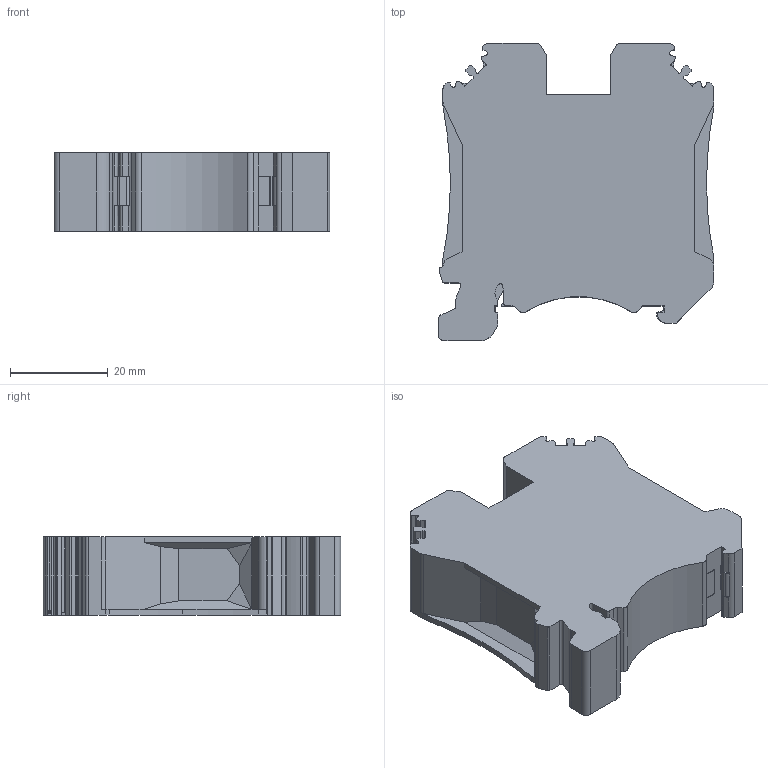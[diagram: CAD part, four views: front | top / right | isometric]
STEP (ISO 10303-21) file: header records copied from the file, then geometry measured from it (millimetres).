
FILE_DESCRIPTION((''),'2;1');
FILE_NAME('PRT0002','2020-05-26T',('Administrator'),(''),'PRO/ENGINEER BY PARAMETRIC TECHNOLOGY CORPORATION, 2012360','PRO/ENGINEER BY PARAMETRIC TECHNOLOGY CORPORATION, 2012360','');
FILE_SCHEMA(('CONFIG_CONTROL_DESIGN'));
Length unit declared in the file: millimetre
Products named in the file (1): PRT0002
Bounding box: 56.4 x 60.8 x 16 mm (x, y, z)
Volume: 39250.5 mm3; surface area: 10578.2 mm2
Topology: 1 solids, 3 shells, 270 faces, 793 edges, 530 vertices
Faces by surface type: plane 175, cylinder 91, cone 4
Entity records: 9058 total; most frequent: CARTESIAN_POINT 1638, ORIENTED_EDGE 1586, DIRECTION 1529, EDGE_CURVE 793, VECTOR 577, LINE 577, VERTEX_POINT 530, AXIS2_PLACEMENT_3D 476
